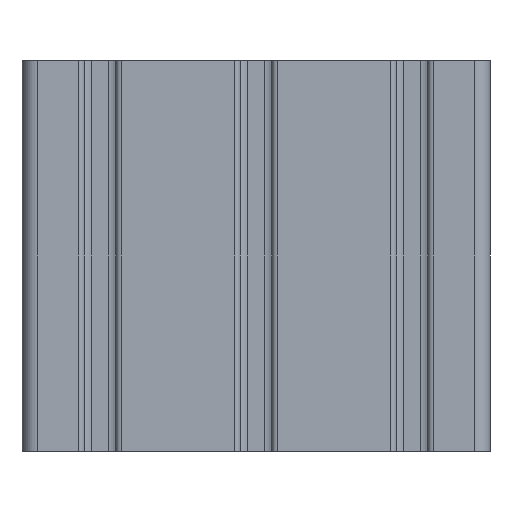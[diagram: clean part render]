
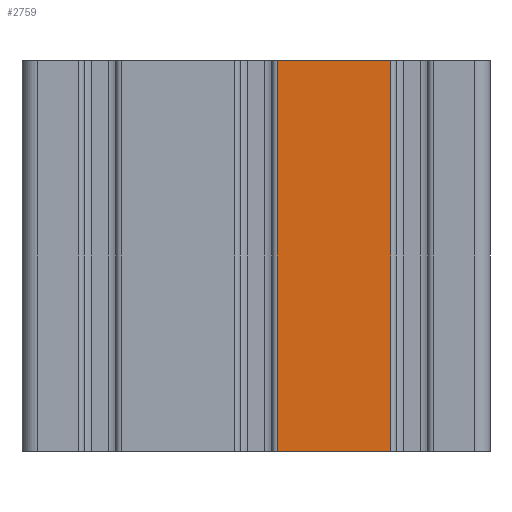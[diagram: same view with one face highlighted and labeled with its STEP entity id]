
A CAD part, front view. The second image highlights one B-rep face of the part: STEP entity #2759.
In plain terms, the highlighted planar face has unit normal (0, -1, 0).
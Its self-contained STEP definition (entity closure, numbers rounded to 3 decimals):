
#23 = ORIENTED_EDGE ( 'NONE', *, *, #3693, .T. ) ;
#24 = LINE ( 'NONE', #2749, #509 ) ;
#36 = EDGE_LOOP ( 'NONE', ( #4799, #5300, #5408, #23 ) ) ;
#398 = VERTEX_POINT ( 'NONE', #4908 ) ;
#495 = CARTESIAN_POINT ( 'NONE',  ( 3074.604, -2979.998, 100. ) ) ;
#509 = VECTOR ( 'NONE', #871, 1000. ) ;
#871 = DIRECTION ( 'NONE',  ( 0., 0., 1. ) ) ;
#1272 = DIRECTION ( 'NONE',  ( 0., 0., 1. ) ) ;
#1489 = VERTEX_POINT ( 'NONE', #495 ) ;
#1507 = VERTEX_POINT ( 'NONE', #4601 ) ;
#1627 = EDGE_CURVE ( 'NONE', #398, #4888, #2471, .T. ) ;
#1663 = CARTESIAN_POINT ( 'NONE',  ( 3074.604, -2979.998, 0. ) ) ;
#1694 = DIRECTION ( 'NONE',  ( 1., 0., 0. ) ) ;
#2206 = VECTOR ( 'NONE', #1694, 1000. ) ;
#2222 = EDGE_CURVE ( 'NONE', #398, #1507, #24, .T. ) ;
#2383 = CARTESIAN_POINT ( 'NONE',  ( 3045.393, -2979.998, 0. ) ) ;
#2411 = EDGE_CURVE ( 'NONE', #1507, #1489, #5545, .T. ) ;
#2471 = LINE ( 'NONE', #5242, #2206 ) ;
#2749 = CARTESIAN_POINT ( 'NONE',  ( 3045.393, -2979.998, 0. ) ) ;
#2759 = ADVANCED_FACE ( 'NONE', ( #5028 ), #2798, .T. ) ;
#2798 = PLANE ( 'NONE',  #2833 ) ;
#2833 = AXIS2_PLACEMENT_3D ( 'NONE', #2383, #3658, #5058 ) ;
#2836 = CARTESIAN_POINT ( 'NONE',  ( 3074.604, -2979.998, 0. ) ) ;
#3117 = LINE ( 'NONE', #1663, #4473 ) ;
#3252 = CARTESIAN_POINT ( 'NONE',  ( 3045.393, -2979.998, 100. ) ) ;
#3478 = VECTOR ( 'NONE', #5064, 1000. ) ;
#3658 = DIRECTION ( 'NONE',  ( 0., -1., 0. ) ) ;
#3693 = EDGE_CURVE ( 'NONE', #4888, #1489, #3117, .T. ) ;
#4473 = VECTOR ( 'NONE', #1272, 1000. ) ;
#4601 = CARTESIAN_POINT ( 'NONE',  ( 3045.393, -2979.998, 100. ) ) ;
#4799 = ORIENTED_EDGE ( 'NONE', *, *, #2411, .F. ) ;
#4888 = VERTEX_POINT ( 'NONE', #2836 ) ;
#4908 = CARTESIAN_POINT ( 'NONE',  ( 3045.393, -2979.998, 0. ) ) ;
#5028 = FACE_OUTER_BOUND ( 'NONE', #36, .T. ) ;
#5058 = DIRECTION ( 'NONE',  ( 1., 0., 0. ) ) ;
#5064 = DIRECTION ( 'NONE',  ( 1., 0., 0. ) ) ;
#5242 = CARTESIAN_POINT ( 'NONE',  ( 3045.393, -2979.998, 0. ) ) ;
#5300 = ORIENTED_EDGE ( 'NONE', *, *, #2222, .F. ) ;
#5408 = ORIENTED_EDGE ( 'NONE', *, *, #1627, .T. ) ;
#5545 = LINE ( 'NONE', #3252, #3478 ) ;
